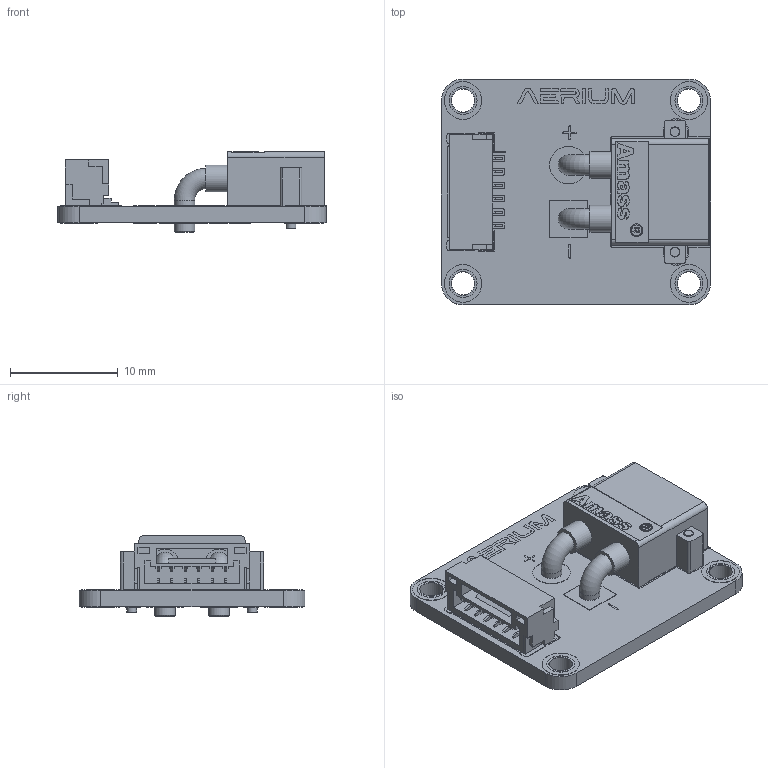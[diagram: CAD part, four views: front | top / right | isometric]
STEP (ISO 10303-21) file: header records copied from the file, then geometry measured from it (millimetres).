
FILE_DESCRIPTION(/* description */ ('KiCad electronic assembly'),/* implementation_level */ '2;1');
FILE_NAME(/* name */ 'Aerium_XT30_Male_3D_Model.step',/* time_stamp */ '2026-09-20T15:52:47+03:00',/* author */ (''),/* organization */ (''),/* preprocessor_version */ 'ST-DEVELOPER v20.1',/* originating_system */ 'Autodesk Translation Framework v15.8.0.0',/* authorisation */ '');
FILE_SCHEMA (('AUTOMOTIVE_DESIGN { 1 0 10303 214 3 1 1 }'));
Length unit declared in the file: millimetre
Products named in the file (7): 2026-09-20-12-12-51-016; 2026-09-20-12-12-51-017; 2026-09-20-12-12-51-018; 2026-09-20-12-12-51-019; 2026-09-20-12-12-51-020; 2026-09-20-12-12-51-021; 2026-09-20-12-12-51-022
Assembly tree (6 placements, depth 2):
  2026-09-20-12-12-51-016
    2026-09-20-12-12-51-017
    2026-09-20-12-12-51-018
    2026-09-20-12-12-51-019
    2026-09-20-12-12-51-020
    2026-09-20-12-12-51-021
    2026-09-20-12-12-51-022
Bounding box: 25 x 21 x 7.5 mm (x, y, z)
Volume: 1174 mm3; surface area: 2837.2 mm2
Topology: 43 solids, 63 shells, 799 faces, 2393 edges, 1751 vertices
Faces by surface type: plane 602, cylinder 138, bspline 51, cone 6, torus 2
Full cylindrical faces by diameter (mm): 0.9 x4, 0.95 x6, 1 x4, 1.4 x4, 1.85 x6, 1.9 x6, 2.15 x20, 2.2 x8, 2.5 x2, 2.6 x8, 3.5 x10
Entity records: 31092 total; most frequent: CARTESIAN_POINT 8786, ORIENTED_EDGE 4303, DIRECTION 4183, EDGE_CURVE 2393, LINE 1939, VECTOR 1939, VERTEX_POINT 1751, AXIS2_PLACEMENT_3D 1122
